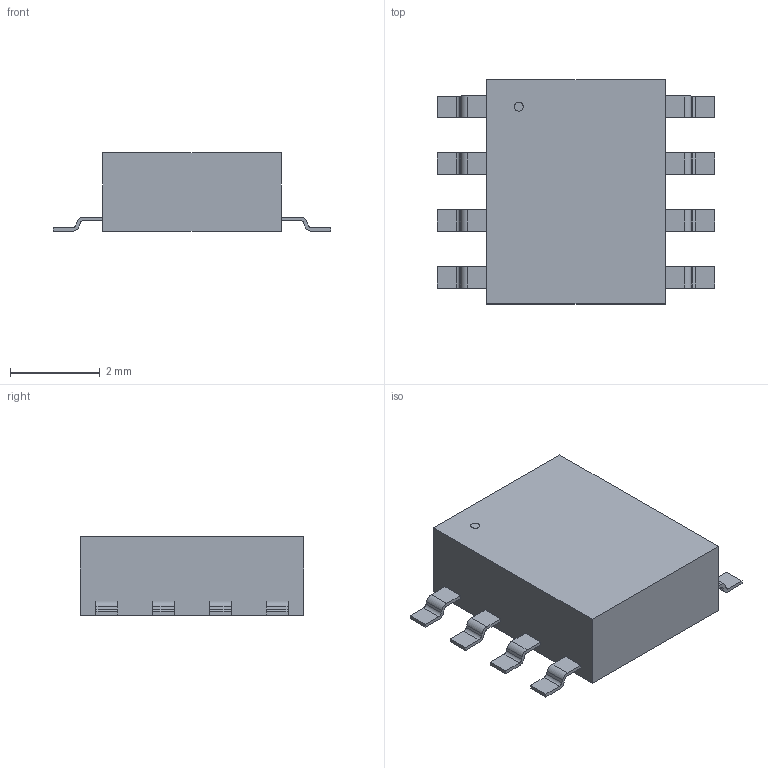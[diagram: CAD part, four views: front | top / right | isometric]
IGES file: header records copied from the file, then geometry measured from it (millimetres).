
Global section: file name: Filename.iges; native system: Open CASCADE 7.7; preprocessor: Open CASCADE IGES processor 7.7; author: SYSTEM; date: 20250312.145139; units: millimetre
Bounding box: 6.2 x 5 x 1.75 mm (x, y, z)
Surface area: 83.2 mm2 (no closed solid volume)
Topology: 0 solids, 0 shells, 121 faces, 606 edges, 604 vertices
Faces by surface type: plane 88, revolution 33
